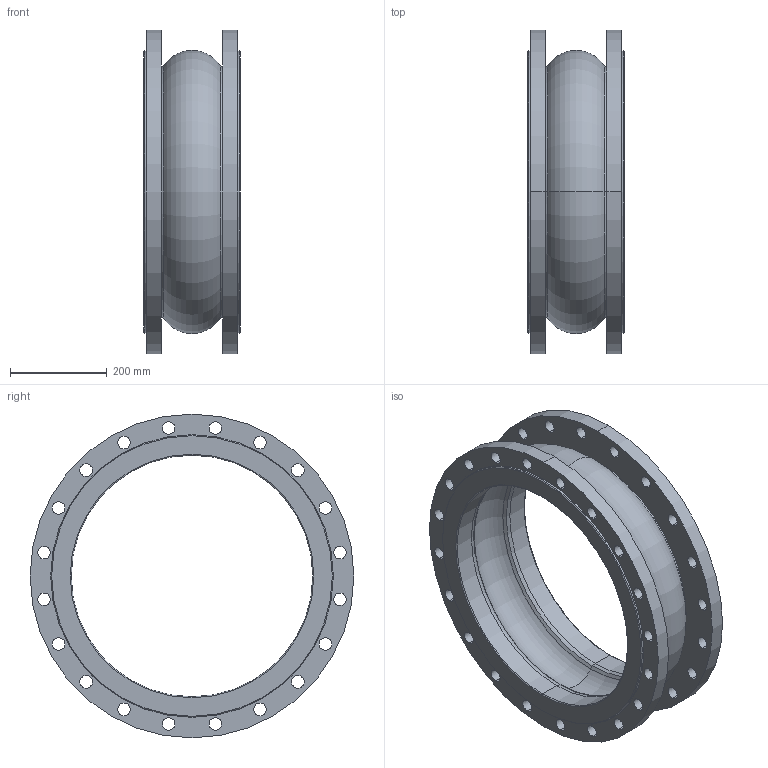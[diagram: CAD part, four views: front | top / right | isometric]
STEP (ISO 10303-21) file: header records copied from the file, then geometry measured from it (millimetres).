
FILE_DESCRIPTION (( 'STEP AP203' ), '1' );
FILE_NAME ('F8_PN10_DN500.STEP', '2012-10-31T09:21:49', ( 'luca.saino' ), ( 'Hewlett-Packard Company' ), 'SwSTEP 2.0', 'SolidWorks 2012', '' );
FILE_SCHEMA (( 'CONFIG_CONTROL_DESIGN' ));
Length unit declared in the file: millimetre
Products named in the file (1): F8_PN10_DN500
Bounding box: 200 x 670 x 670 mm (x, y, z)
Volume: 13224716.7 mm3; surface area: 1464910.8 mm2
Topology: 1 solids, 1 shells, 122 faces, 324 edges, 208 vertices
Faces by surface type: cylinder 92, torus 16, cone 8, plane 6
Entity records: 4141 total; most frequent: DIRECTION 794, CARTESIAN_POINT 655, ORIENTED_EDGE 648, AXIS2_PLACEMENT_3D 347, EDGE_CURVE 324, CIRCLE 224, EDGE_LOOP 208, VERTEX_POINT 208
